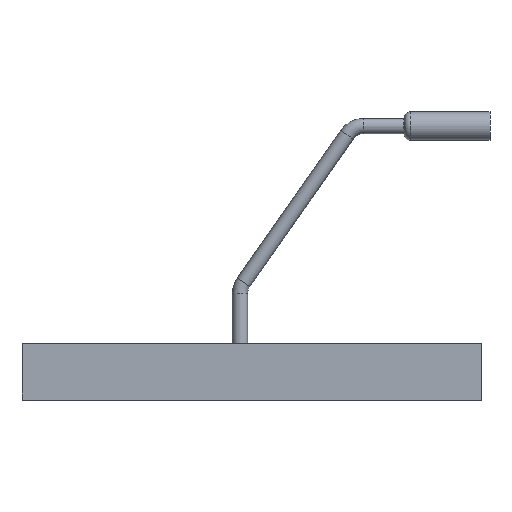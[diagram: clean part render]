
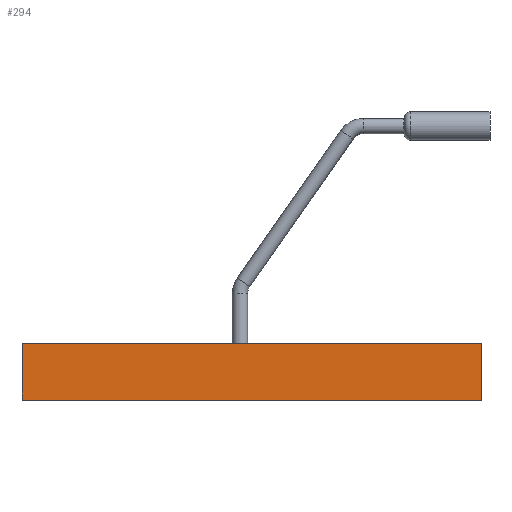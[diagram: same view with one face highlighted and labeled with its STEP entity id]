
A CAD part, top view. The second image highlights one B-rep face of the part: STEP entity #294.
In plain terms, the highlighted planar face has unit normal (0, 0, 1).
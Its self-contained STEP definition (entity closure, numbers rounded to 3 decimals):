
#46 = ORIENTED_EDGE ( 'NONE', *, *, #446, .F. ) ;
#47 = ORIENTED_EDGE ( 'NONE', *, *, #718, .F. ) ;
#48 = ORIENTED_EDGE ( 'NONE', *, *, #715, .T. ) ;
#49 = ORIENTED_EDGE ( 'NONE', *, *, #717, .T. ) ;
#75 = LINE ( 'NONE', #668, #77 ) ;
#77 = VECTOR ( 'NONE', #676, 1000. ) ;
#80 = LINE ( 'NONE', #683, #81 ) ;
#81 = VECTOR ( 'NONE', #684, 1000. ) ;
#122 = LINE ( 'NONE', #649, #123 ) ;
#123 = VECTOR ( 'NONE', #656, 1000. ) ;
#207 = VERTEX_POINT ( 'NONE', #240 ) ;
#228 = VERTEX_POINT ( 'NONE', #480 ) ;
#240 = CARTESIAN_POINT ( 'NONE',  ( -114.853, -30., 5.25 ) ) ;
#255 = VERTEX_POINT ( 'NONE', #486 ) ;
#268 = VERTEX_POINT ( 'NONE', #492 ) ;
#294 = ADVANCED_FACE ( 'NONE', ( #430 ), #569, .T. ) ;
#305 = LINE ( 'NONE', #681, #307 ) ;
#307 = VECTOR ( 'NONE', #682, 1000. ) ;
#323 = EDGE_LOOP ( 'NONE', ( #46, #47, #48, #49 ) ) ;
#389 = AXIS2_PLACEMENT_3D ( 'NONE', #575, #579, #580 ) ;
#430 = FACE_OUTER_BOUND ( 'NONE', #323, .T. ) ;
#446 = EDGE_CURVE ( 'NONE', #228, #268, #122, .T. ) ;
#480 = CARTESIAN_POINT ( 'NONE',  ( 127.247, 0., 5.25 ) ) ;
#486 = CARTESIAN_POINT ( 'NONE',  ( -114.853, 0., 5.25 ) ) ;
#492 = CARTESIAN_POINT ( 'NONE',  ( 127.247, -30., 5.25 ) ) ;
#569 = PLANE ( 'NONE',  #389 ) ;
#575 = CARTESIAN_POINT ( 'NONE',  ( -114.853, -30., 5.25 ) ) ;
#579 = DIRECTION ( 'NONE',  ( 0., 0., 1. ) ) ;
#580 = DIRECTION ( 'NONE',  ( 0., -1., 0. ) ) ;
#649 = CARTESIAN_POINT ( 'NONE',  ( 127.247, -30., 5.25 ) ) ;
#656 = DIRECTION ( 'NONE',  ( 0., -1., 0. ) ) ;
#668 = CARTESIAN_POINT ( 'NONE',  ( -114.853, -30., 5.25 ) ) ;
#676 = DIRECTION ( 'NONE',  ( 0., -1., 0. ) ) ;
#681 = CARTESIAN_POINT ( 'NONE',  ( -114.853, -30., 5.25 ) ) ;
#682 = DIRECTION ( 'NONE',  ( 1., 0., 0. ) ) ;
#683 = CARTESIAN_POINT ( 'NONE',  ( -114.853, 0., 5.25 ) ) ;
#684 = DIRECTION ( 'NONE',  ( 1., 0., 0. ) ) ;
#715 = EDGE_CURVE ( 'NONE', #255, #207, #75, .T. ) ;
#717 = EDGE_CURVE ( 'NONE', #207, #268, #305, .T. ) ;
#718 = EDGE_CURVE ( 'NONE', #255, #228, #80, .T. ) ;
